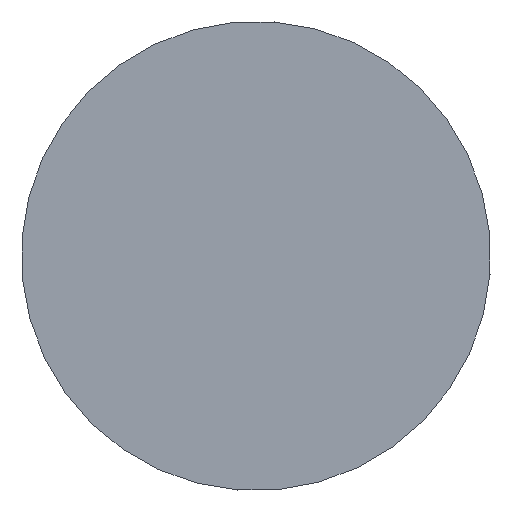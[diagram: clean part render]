
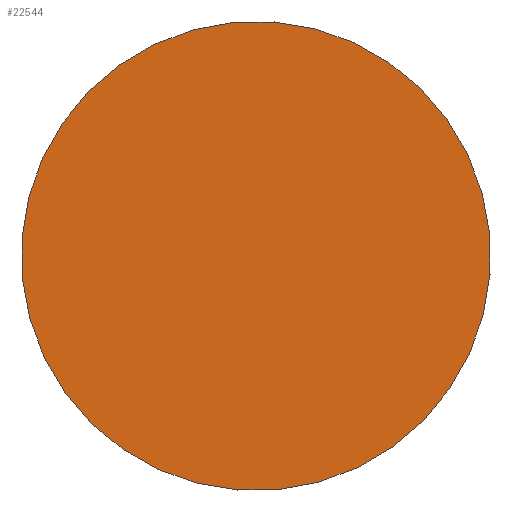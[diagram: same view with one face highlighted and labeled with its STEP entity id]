
A CAD part, left-side view. The second image highlights one B-rep face of the part: STEP entity #22544.
In plain terms, the highlighted planar face has unit normal (-1, 0, 0).
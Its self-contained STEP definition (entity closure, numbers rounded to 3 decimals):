
#22521=CARTESIAN_POINT('',(-49.273,20.912,53.337));
#22522=VERTEX_POINT('',#22521);
#22523=CARTESIAN_POINT('',(-49.273,25.085,0.));
#22524=DIRECTION('',(-1.,0.,0.));
#22525=DIRECTION('',(0.,-0.078,0.997));
#22526=AXIS2_PLACEMENT_3D('',#22523,#22524,#22525);
#22527=CIRCLE('',#22526,53.5);
#22528=EDGE_CURVE('',#22522,#22522,#22527,.T.);
#22536=CARTESIAN_POINT('',(-49.273,21.439,46.608));
#22537=DIRECTION('',(-1.0,0.0,0.0));
#22538=DIRECTION('',(0.0,0.997,0.078));
#22539=AXIS2_PLACEMENT_3D('',#22536,#22537,#22538);
#22540=PLANE('',#22539);
#22541=ORIENTED_EDGE('',*,*,#22528,.T.);
#22542=EDGE_LOOP('',(#22541));
#22543=FACE_OUTER_BOUND('',#22542,.T.);
#22544=ADVANCED_FACE('',(#22543),#22540,.T.);
